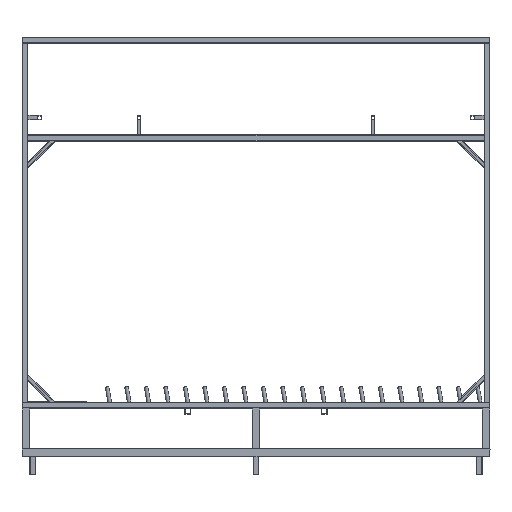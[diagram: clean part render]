
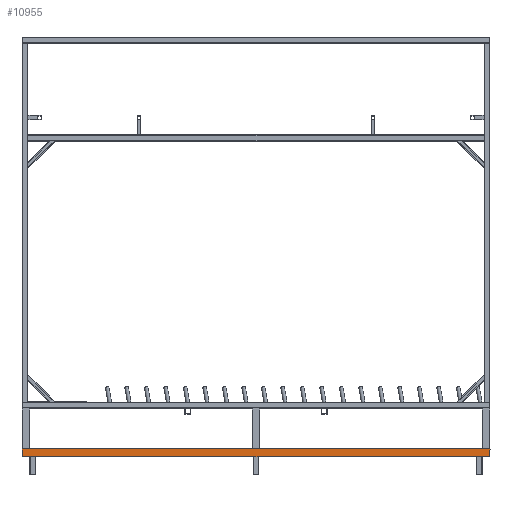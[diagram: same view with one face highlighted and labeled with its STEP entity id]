
A CAD part, top view. The second image highlights one B-rep face of the part: STEP entity #10955.
In plain terms, the highlighted planar face has unit normal (0, 0, 1).
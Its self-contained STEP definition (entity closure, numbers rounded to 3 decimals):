
#1123 = EDGE_CURVE ( 'NONE', #13374, #27012, #25348, .T. ) ;
#1169 = VERTEX_POINT ( 'NONE', #20989 ) ;
#2067 = VERTEX_POINT ( 'NONE', #23008 ) ;
#2393 = CARTESIAN_POINT ( 'NONE',  ( 1200., -210., 400. ) ) ;
#2739 = VERTEX_POINT ( 'NONE', #27643 ) ;
#3408 = DIRECTION ( 'NONE',  ( -1., 0., 0. ) ) ;
#3865 = CARTESIAN_POINT ( 'NONE',  ( 1200., -250., 400. ) ) ;
#4974 = LINE ( 'NONE', #19288, #24898 ) ;
#6379 = LINE ( 'NONE', #11463, #12122 ) ;
#7583 = LINE ( 'NONE', #15909, #27365 ) ;
#7593 = VERTEX_POINT ( 'NONE', #10123 ) ;
#7716 = EDGE_CURVE ( 'NONE', #13374, #7593, #7583, .T. ) ;
#8939 = DIRECTION ( 'NONE',  ( 0., 1., 0. ) ) ;
#8942 = CARTESIAN_POINT ( 'NONE',  ( -450., -250., 400. ) ) ;
#9546 = CARTESIAN_POINT ( 'NONE',  ( 1200., -250., 400. ) ) ;
#10123 = CARTESIAN_POINT ( 'NONE',  ( 1200., -250., 400. ) ) ;
#10955 = ADVANCED_FACE ( 'NONE', ( #18238 ), #29315, .F. ) ;
#11284 = DIRECTION ( 'NONE',  ( -1., 0., 0. ) ) ;
#11417 = ORIENTED_EDGE ( 'NONE', *, *, #18286, .F. ) ;
#11463 = CARTESIAN_POINT ( 'NONE',  ( 1200., -250., 400. ) ) ;
#11515 = VECTOR ( 'NONE', #3408, 1000. ) ;
#12122 = VECTOR ( 'NONE', #11284, 1000. ) ;
#12866 = EDGE_CURVE ( 'NONE', #1169, #2067, #6379, .T. ) ;
#13345 = DIRECTION ( 'NONE',  ( -1., 0., 0. ) ) ;
#13374 = VERTEX_POINT ( 'NONE', #2393 ) ;
#14059 = VECTOR ( 'NONE', #8939, 1000. ) ;
#14927 = DIRECTION ( 'NONE',  ( -1., 0., 0. ) ) ;
#15896 = ORIENTED_EDGE ( 'NONE', *, *, #7716, .F. ) ;
#15909 = CARTESIAN_POINT ( 'NONE',  ( 1200., -250., 400. ) ) ;
#16151 = CARTESIAN_POINT ( 'NONE',  ( -1200., -210., 400. ) ) ;
#16409 = DIRECTION ( 'NONE',  ( -1., 0., 0. ) ) ;
#17097 = EDGE_CURVE ( 'NONE', #2739, #27012, #33806, .T. ) ;
#17713 = AXIS2_PLACEMENT_3D ( 'NONE', #9546, #20602, #26607 ) ;
#18238 = FACE_OUTER_BOUND ( 'NONE', #31337, .T. ) ;
#18286 = EDGE_CURVE ( 'NONE', #2067, #27651, #19824, .T. ) ;
#18331 = VECTOR ( 'NONE', #33267, 1000. ) ;
#19288 = CARTESIAN_POINT ( 'NONE',  ( 1200., -250., 400. ) ) ;
#19350 = CARTESIAN_POINT ( 'NONE',  ( 1200., -210., 400. ) ) ;
#19824 = LINE ( 'NONE', #33109, #29760 ) ;
#20602 = DIRECTION ( 'NONE',  ( 0., 0., -1. ) ) ;
#20989 = CARTESIAN_POINT ( 'NONE',  ( 450., -250., 400. ) ) ;
#21506 = ORIENTED_EDGE ( 'NONE', *, *, #33123, .F. ) ;
#21755 = ORIENTED_EDGE ( 'NONE', *, *, #34501, .F. ) ;
#22212 = CARTESIAN_POINT ( 'NONE',  ( 1200., -250., 400. ) ) ;
#23008 = CARTESIAN_POINT ( 'NONE',  ( 350., -250., 400. ) ) ;
#24898 = VECTOR ( 'NONE', #13345, 1000. ) ;
#25105 = LINE ( 'NONE', #22212, #18331 ) ;
#25348 = LINE ( 'NONE', #19350, #11515 ) ;
#25467 = CARTESIAN_POINT ( 'NONE',  ( -1200., -250., 400. ) ) ;
#26173 = EDGE_CURVE ( 'NONE', #7593, #1169, #4974, .T. ) ;
#26326 = VERTEX_POINT ( 'NONE', #8942 ) ;
#26607 = DIRECTION ( 'NONE',  ( -1., 0., 0. ) ) ;
#26897 = ORIENTED_EDGE ( 'NONE', *, *, #17097, .F. ) ;
#26981 = DIRECTION ( 'NONE',  ( 0., -1., 0. ) ) ;
#27012 = VERTEX_POINT ( 'NONE', #16151 ) ;
#27365 = VECTOR ( 'NONE', #26981, 1000. ) ;
#27643 = CARTESIAN_POINT ( 'NONE',  ( -1200., -250., 400. ) ) ;
#27651 = VERTEX_POINT ( 'NONE', #28054 ) ;
#28054 = CARTESIAN_POINT ( 'NONE',  ( -350., -250., 400. ) ) ;
#28713 = LINE ( 'NONE', #3865, #32942 ) ;
#29315 = PLANE ( 'NONE',  #17713 ) ;
#29760 = VECTOR ( 'NONE', #16409, 1000. ) ;
#29806 = ORIENTED_EDGE ( 'NONE', *, *, #1123, .T. ) ;
#30664 = ORIENTED_EDGE ( 'NONE', *, *, #26173, .F. ) ;
#31337 = EDGE_LOOP ( 'NONE', ( #26897, #21506, #21755, #11417, #32983, #30664, #15896, #29806 ) ) ;
#32942 = VECTOR ( 'NONE', #14927, 1000. ) ;
#32983 = ORIENTED_EDGE ( 'NONE', *, *, #12866, .F. ) ;
#33109 = CARTESIAN_POINT ( 'NONE',  ( 1200., -250., 400. ) ) ;
#33123 = EDGE_CURVE ( 'NONE', #26326, #2739, #25105, .T. ) ;
#33267 = DIRECTION ( 'NONE',  ( -1., 0., 0. ) ) ;
#33806 = LINE ( 'NONE', #25467, #14059 ) ;
#34501 = EDGE_CURVE ( 'NONE', #27651, #26326, #28713, .T. ) ;
